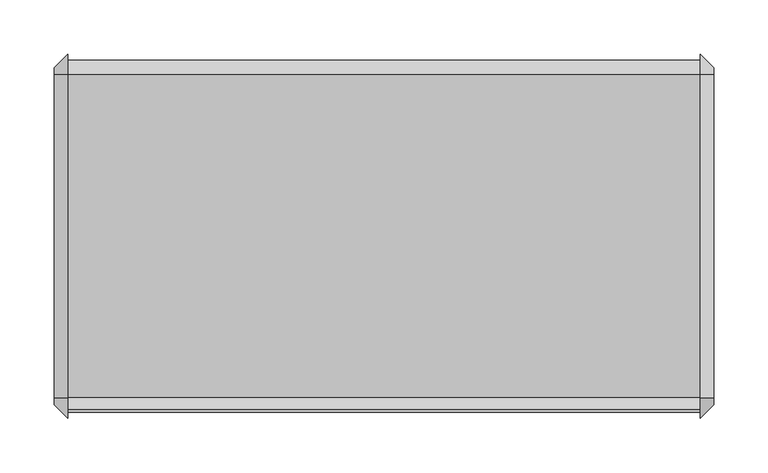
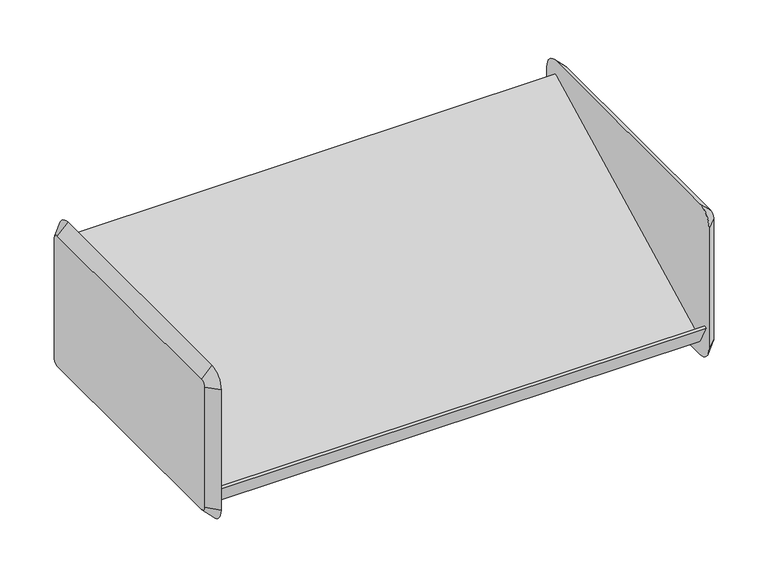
"""IFC4 building model written with IfcOpenShell, lengths in millimetres: furniture geometry."""

from ifc_helpers import new_model, si_unit, frame, origin, place, context, project, spatial, polyline, circle_curve, outline, extrude, source, transform, mapped, element, save
from ifc_brep_helpers import plane_surface, revolved_surface, advanced_brep


def furniture_fbea0b57(model_context):
    return source(origin(), model_context, "Body", "SolidModel", [
        advanced_brep(
        [(180.8579955, 161.925, 1562.1), (180.8579955, -136.525, 1562.1), (180.8579955, -142.875, 1555.75), (180.8579955, -142.875, 1403.35), (180.8579955, -136.525, 1397.0), (180.8579955, 161.925, 1397.0), (180.8579955, 168.275, 1403.35), (180.8579955, 168.275, 1555.75), (168.1579955, 161.925, 1574.8), (168.1579955, 180.975, 1555.75), (168.1579955, 180.975, 1403.35), (168.1579955, 161.925, 1384.3), (168.1579955, -136.525, 1384.3), (168.1579955, -155.575, 1403.35), (168.1579955, -155.575, 1555.75), (168.1579955, -136.525, 1574.8)],
        [
            (0, 1),
            (1, 2, circle_curve(frame((180.8579955, -136.525, 1555.75), z_axis=(1.0, 2.0730084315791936e-12, -2.1742607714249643e-12), x_axis=(2.1742640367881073e-12, 0.0, 1.0)), 6.35)),
            (2, 3),
            (3, 4, circle_curve(frame((180.8579955, -136.525, 1403.35), z_axis=(1.0, 2.059685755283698e-12, 2.025046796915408e-12), x_axis=(2.059647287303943e-12, -1.0, 0.0)), 6.35)),
            (4, 5),
            (5, 6, circle_curve(frame((180.8579955, 161.925, 1403.35), z_axis=(1.0, 2.088995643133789e-12, -2.1103119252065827e-12), x_axis=(-2.1103612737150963e-12, 0.0, -1.0)), 6.35)),
            (6, 7),
            (7, 0, circle_curve(frame((180.8579955, 161.925, 1555.75), z_axis=(1.0, 2.0783375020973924e-12, 1.9824142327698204e-12), x_axis=(-2.0783313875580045e-12, 1.0, 0.0)), 6.35)),
            (8, 9, circle_curve(frame((168.1579955, 161.925, 1555.75), z_axis=(-1.0, -2.0783375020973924e-12, -1.9824142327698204e-12), x_axis=(-2.0783313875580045e-12, 1.0, 0.0)), 19.05)),
            (9, 10),
            (10, 11, circle_curve(frame((168.1579955, 161.925, 1403.35), z_axis=(-1.0, -2.088995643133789e-12, 2.1103119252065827e-12), x_axis=(-2.1103612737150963e-12, 0.0, -1.0)), 19.05)),
            (11, 12),
            (12, 13, circle_curve(frame((168.1579955, -136.525, 1403.35), z_axis=(-1.0, -2.059685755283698e-12, -2.025046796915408e-12), x_axis=(2.059647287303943e-12, -1.0, 0.0)), 19.05)),
            (13, 14),
            (14, 15, circle_curve(frame((168.1579955, -136.525, 1555.75), z_axis=(-1.0, -2.0730084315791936e-12, 2.1742607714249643e-12), x_axis=(2.1742640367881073e-12, 0.0, 1.0)), 19.05)),
            (15, 8),
            (15, 1),
            (0, 8),
            (14, 2),
            (13, 3),
            (12, 4),
            (11, 5),
            (10, 6),
            (9, 7),
        ],
        [
            plane_surface(frame((180.8579955, 12.7, 1479.55), z_axis=(1.0, 0.0, 0.0), x_axis=(0.0, -1.0, 0.0))),
            plane_surface(frame((168.1579955, 12.7, 1479.55), z_axis=(-1.0, 0.0, 0.0), x_axis=(0.0, -1.0, 0.0))),
            plane_surface(frame((168.1579955, 12.7, 1574.8), z_axis=(0.7071067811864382, 0.0, 0.7071067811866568), x_axis=(0.0, -1.0, 0.0))),
            revolved_surface(polyline([(180.8579955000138, -136.525, 1562.0999999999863), (168.1579955, -136.525, 1574.8)]), (187.2079955, -136.525, 1555.75), (-1.0, -2.0730084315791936e-12, 2.1742607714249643e-12)),
            plane_surface(frame((168.1579955, -155.575, 1479.55), z_axis=(0.707106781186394, -0.7071067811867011, 0.0), x_axis=(0.0, 0.0, -1.0))),
            revolved_surface(polyline([(180.85799550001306, -142.87499999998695, 1403.35), (168.1579955, -155.575, 1403.35)]), (187.2079955, -136.525, 1403.35), (-1.0, -2.059685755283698e-12, -2.025046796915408e-12)),
            plane_surface(frame((168.1579955, 12.7, 1384.3), z_axis=(0.7071067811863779, 0.0, -0.7071067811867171), x_axis=(0.0, 1.0, 0.0))),
            revolved_surface(polyline([(180.8579955, 161.925, 1397.0), (168.15799549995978, 161.925, 1384.2999999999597)]), (187.2079955, 161.925, 1403.35), (-1.0, -2.088995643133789e-12, 2.1103119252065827e-12)),
            plane_surface(frame((168.1579955, 180.975, 1479.55), z_axis=(0.707106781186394, 0.7071067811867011, 0.0), x_axis=(0.0, 0.0, 1.0))),
            revolved_surface(polyline([(180.8579955, 168.27500000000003, 1555.75), (168.1579954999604, 180.97500000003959, 1555.75)]), (187.2079955, 161.925, 1555.75), (-1.0, -2.0783375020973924e-12, -1.9824142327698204e-12)),
        ],
        [
            (0, [[1, 2, 3, 4, 5, 6, 7, 8]]),
            (1, [[9, 10, 11, 12, 13, 14, 15, 16]]),
            (2, [[-16, 17, -1, 18]]),
            (3, [[-15, 19, -2, -17]]),
            (4, [[-14, 20, -3, -19]]),
            (5, [[-13, 21, -4, -20]]),
            (6, [[-12, 22, -5, -21]]),
            (7, [[-11, 23, -6, -22]]),
            (8, [[-10, 24, -7, -23]]),
            (9, [[-9, -18, -8, -24]]),
        ],
    ),
        advanced_brep(
        [(-428.7420045, -136.525, 1562.1), (-428.7420045, 161.925, 1562.1), (-428.7420045, 168.275, 1555.75), (-428.7420045, 168.275, 1403.35), (-428.7420045, 161.925, 1397.0), (-428.7420045, -136.525, 1397.0), (-428.7420045, -142.875, 1403.35), (-428.7420045, -142.875, 1555.75), (-416.0420045, -136.525, 1574.8), (-416.0420045, -155.575, 1555.75), (-416.0420045, -155.575, 1403.35), (-416.0420045, -136.525, 1384.3), (-416.0420045, 161.925, 1384.3), (-416.0420045, 180.975, 1403.35), (-416.0420045, 180.975, 1555.75), (-416.0420045, 161.925, 1574.8)],
        [
            (0, 1),
            (1, 2, circle_curve(frame((-428.7420045, 161.925, 1555.75), z_axis=(-1.0, 0.0, 0.0), x_axis=(0.0, 0.0, 1.0)), 6.35)),
            (2, 3),
            (3, 4, circle_curve(frame((-428.7420045, 161.925, 1403.35), z_axis=(-1.0, 0.0, 0.0), x_axis=(0.0, 1.0, 0.0)), 6.35)),
            (4, 5),
            (5, 6, circle_curve(frame((-428.7420045, -136.525, 1403.35), z_axis=(-1.0, 0.0, 0.0), x_axis=(0.0, 0.0, -1.0)), 6.35)),
            (6, 7),
            (7, 0, circle_curve(frame((-428.7420045, -136.525, 1555.75), z_axis=(-1.0, 0.0, 0.0), x_axis=(0.0, -1.0, 0.0)), 6.35)),
            (8, 9, circle_curve(frame((-416.0420045, -136.525, 1555.75), z_axis=(1.0, 0.0, 0.0), x_axis=(0.0, -1.0, 0.0)), 19.05)),
            (9, 10),
            (10, 11, circle_curve(frame((-416.0420045, -136.525, 1403.35), z_axis=(1.0, 0.0, 0.0), x_axis=(0.0, 0.0, -1.0)), 19.05)),
            (11, 12),
            (12, 13, circle_curve(frame((-416.0420045, 161.925, 1403.35), z_axis=(1.0, 0.0, 0.0), x_axis=(0.0, 1.0, 0.0)), 19.05)),
            (13, 14),
            (14, 15, circle_curve(frame((-416.0420045, 161.925, 1555.75), z_axis=(1.0, 0.0, 0.0), x_axis=(0.0, 0.0, 1.0)), 19.05)),
            (15, 8),
            (15, 1),
            (0, 8),
            (14, 2),
            (13, 3),
            (12, 4),
            (11, 5),
            (10, 6),
            (9, 7),
        ],
        [
            plane_surface(frame((-428.7420045, 12.7, 1479.55), z_axis=(-1.0, 0.0, 0.0), x_axis=(0.0, -1.0, 0.0))),
            plane_surface(frame((-416.0420045, 12.7, 1479.55), z_axis=(1.0, 0.0, 0.0), x_axis=(0.0, -1.0, 0.0))),
            plane_surface(frame((-416.0420045, 12.7, 1574.8), z_axis=(-0.7071067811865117, 0.0, 0.7071067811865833), x_axis=(0.0, 1.0, 0.0))),
            revolved_surface(polyline([(-428.7420045, 161.925, 1562.1), (-416.0420045, 161.925, 1574.8)]), (-435.0920045, 161.925, 1555.75), (1.0, 0.0, 0.0)),
            plane_surface(frame((-416.0420045, 180.975, 1479.55), z_axis=(-0.7071067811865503, 0.7071067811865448, 0.0), x_axis=(0.0, 0.0, -1.0))),
            revolved_surface(polyline([(-428.7420045, 168.27499999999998, 1403.35), (-416.0420045, 180.975, 1403.35)]), (-435.0920045, 161.925, 1403.35), (1.0, 0.0, 0.0)),
            plane_surface(frame((-416.0420045, 12.7, 1384.3), z_axis=(-0.707106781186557, 0.0, -0.7071067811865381), x_axis=(0.0, -1.0, 0.0))),
            revolved_surface(polyline([(-428.7420045, -136.525, 1397.0), (-416.0420045, -136.525, 1384.3)]), (-435.0920045, -136.525, 1403.35), (1.0, 0.0, 0.0)),
            plane_surface(frame((-416.0420045, -155.575, 1479.55), z_axis=(-0.7071067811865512, -0.7071067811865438, 0.0), x_axis=(0.0, 0.0, 1.0))),
            revolved_surface(polyline([(-428.7420045, -142.87499999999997, 1555.75), (-416.0420045, -155.575, 1555.75)]), (-435.0920045, -136.525, 1555.75), (1.0, 0.0, 0.0)),
        ],
        [
            (0, [[1, 2, 3, 4, 5, 6, 7, 8]]),
            (1, [[9, 10, 11, 12, 13, 14, 15, 16]]),
            (2, [[-16, 17, -1, 18]]),
            (3, [[-15, 19, -2, -17]]),
            (4, [[-14, 20, -3, -19]]),
            (5, [[-13, 21, -4, -20]]),
            (6, [[-12, 22, -5, -21]]),
            (7, [[-11, 23, -6, -22]]),
            (8, [[-10, 24, -7, -23]]),
            (9, [[-9, -18, -8, -24]]),
        ],
    ),
        extrude(outline(polyline([(-137.2094993, 1401.2179666), (-149.845093, 1425.6467844), (-147.0173828, 1427.0907216), (-135.8404765, 1405.4820334), (162.5893131, 1557.8717194), (175.2453599, 1534.2470972), (172.4171401, 1532.8028998), (161.2606869, 1553.6282806), (-137.2094993, 1401.2179666)])), frame((-416.0420045, 0.0, 0.0), z_axis=(1.0, 0.0, 0.0), x_axis=(0.0, 1.0, 0.0)), (0.0, 0.0, 1.0), 584.2),
    ])


if __name__ == "__main__":
    model = new_model("IFC4")
    model_context = context("Model", 3, world=origin())
    ifc_project = project(units=[si_unit("LENGTHUNIT", "METRE", prefix="MILLI")], contexts=[model_context])
    site = spatial("IfcSite", under=ifc_project)
    building = spatial("IfcBuilding", under=site)
    placement = place(None, origin())
    furniture_shape = furniture_fbea0b57(model_context)
    element("IfcFurniture", 1, ObjectType="HermanMiller_ActionOffice_A3220_B-StyleStorageDisplay : Display 13\"D x 24\"W", at=placement, inside=building, context=model_context, shape_type="MappedRepresentation", body=[
        mapped(furniture_shape, transform((0.0, 0.0, 0.0), x_axis=(1.0, 0.0, 0.0), y_axis=(0.0, 1.0, 0.0), z_axis=(0.0, 0.0, 1.0))),
    ])
    save(model, "model.ifc")
